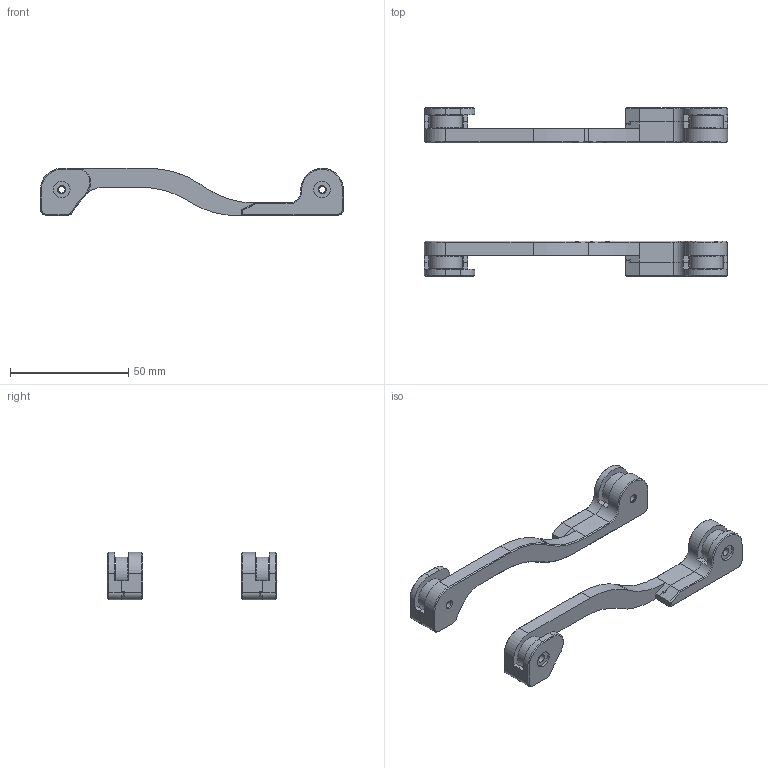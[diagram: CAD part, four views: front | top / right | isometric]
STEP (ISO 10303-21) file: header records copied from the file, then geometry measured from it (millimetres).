
FILE_DESCRIPTION(/* description */ (''),/* implementation_level */ '2;1');
FILE_NAME(/* name */ 'Spool Holders.step',/* time_stamp */ '2026-01-26T17:51:17-05:00',/* author */ (''),/* organization */ (''),/* preprocessor_version */ 'ST-DEVELOPER v20.1',/* originating_system */ 'Autodesk Translation Framework v14.21.0.0',/* authorisation */ '');
FILE_SCHEMA (('AUTOMOTIVE_DESIGN { 1 0 10303 214 3 1 1 }'));
Length unit declared in the file: millimetre
Products named in the file (13): Spool Holders; PV3 Portable Spool Holder [3DP] v2 (1).step; 605-ZZ v1 (2).step; 605-ZZ v1 (3).step; PV3 Portable Spool Holder [3DP] v2 (1)-6.step; PV3 Portable Spool Holder [3DP] v2 (1)-7.step; PV3 Portable Spool Holder [3DP] v2 (1)-8.step; PV3 Portable Spool Holder [3DP] v2.step; 605-ZZ v1.step; 605-ZZ v1 (1).step; PV3 Portable Spool Holder [3DP] v2-3.step; PV3 Portable Spool Holder [3DP] v2-4.step; PV3 Portable Spool Holder [3DP] v2-5.step
Assembly tree (12 placements, depth 3):
  Spool Holders
    PV3 Portable Spool Holder [3DP] v2 (1).step
      605-ZZ v1 (2).step
      605-ZZ v1 (3).step
      PV3 Portable Spool Holder [3DP] v2 (1)-6.step
      PV3 Portable Spool Holder [3DP] v2 (1)-7.step
      PV3 Portable Spool Holder [3DP] v2 (1)-8.step
    PV3 Portable Spool Holder [3DP] v2.step
      605-ZZ v1.step
      605-ZZ v1 (1).step
      PV3 Portable Spool Holder [3DP] v2-3.step
      PV3 Portable Spool Holder [3DP] v2-4.step
      PV3 Portable Spool Holder [3DP] v2-5.step
Bounding box: 128.05 x 71.18 x 20 mm (x, y, z)
Volume: 26196.4 mm3; surface area: 18849.2 mm2
Topology: 10 solids, 10 shells, 350 faces, 800 edges, 506 vertices
Faces by surface type: plane 202, cylinder 102, cone 46
Full cylindrical faces by diameter (mm): 2.9 x4, 3.4 x4, 4.9 x8, 5 x4, 7 x20, 12 x8, 14 x4
Entity records: 10265 total; most frequent: DIRECTION 1844, CARTESIAN_POINT 1681, ORIENTED_EDGE 1600, EDGE_CURVE 800, AXIS2_PLACEMENT_3D 669, LINE 506, VECTOR 506, VERTEX_POINT 506
